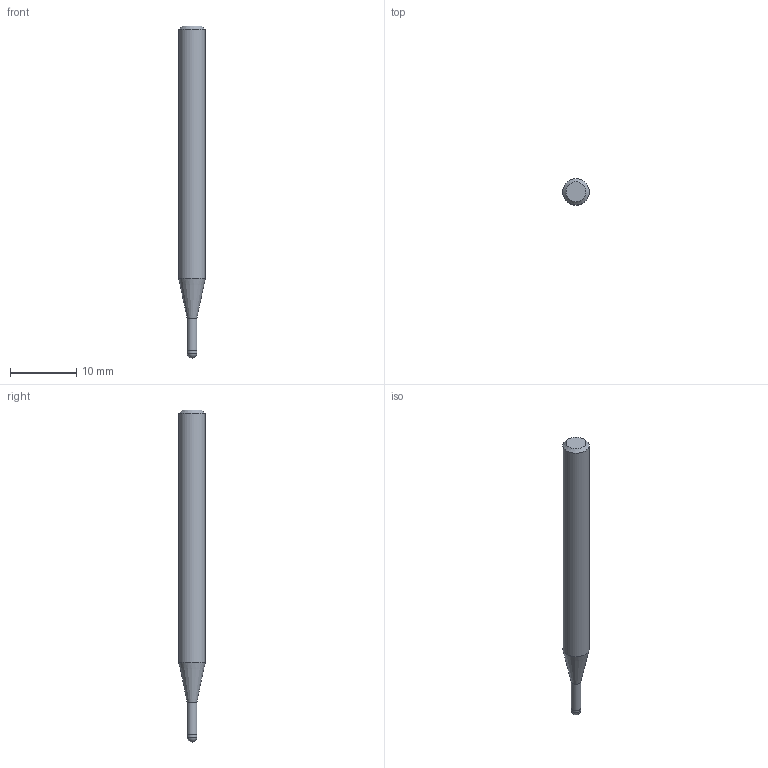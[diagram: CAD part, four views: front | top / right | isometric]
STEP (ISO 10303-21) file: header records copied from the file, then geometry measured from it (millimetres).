
FILE_DESCRIPTION((''),'2;1');
FILE_NAME('C:\Users\nsx150\AppData\Local\Temp\Mastercam 2021\ZXBT0ST9RL\TEMP.step','2021-06-25T11:02:59',(''),(''),'STEP Write','Mastercam 2021 ... CNC Software, Inc.','');
FILE_SCHEMA(('AUTOMOTIVE_DESIGN'));
Length unit declared in the file: millimetre
Products named in the file (1): None
Bounding box: 4 x 4 x 50 mm (x, y, z)
Volume: 523.2 mm3; surface area: 569.5 mm2
Topology: 2 solids, 2 shells, 9 faces, 14 edges, 8 vertices
Faces by surface type: plane 3, cylinder 3, cone 2, sphere 1
Full cylindrical faces by diameter (mm): 1.45 x1, 1.5 x1, 4 x1
Entity records: 211 total; most frequent: DIRECTION 36, CARTESIAN_POINT 25, AXIS2_PLACEMENT_3D 18, ORIENTED_EDGE 14, EDGE_LOOP 14, STYLED_ITEM 12, ADVANCED_FACE 9, FACE_BOUND 8
